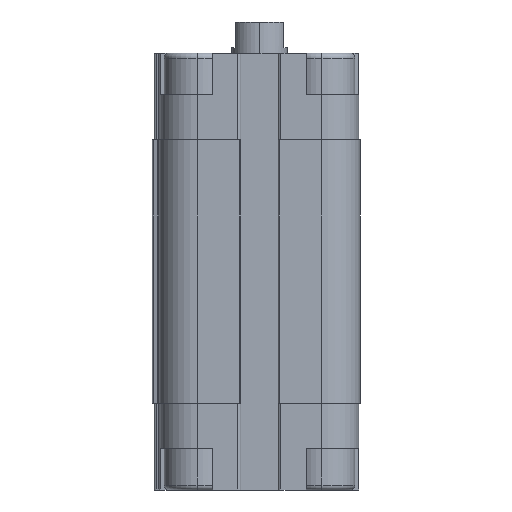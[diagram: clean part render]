
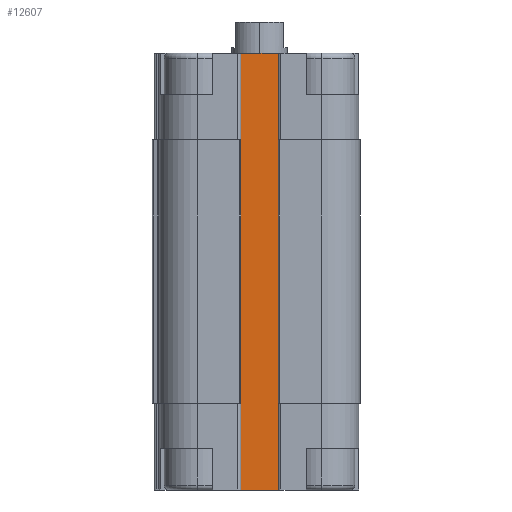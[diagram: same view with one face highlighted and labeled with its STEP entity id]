
A CAD part, left-side view. The second image highlights one B-rep face of the part: STEP entity #12607.
In plain terms, the highlighted planar face has unit normal (-1, 0, 0).
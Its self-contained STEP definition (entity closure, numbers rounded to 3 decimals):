
#48 = ORIENTED_EDGE ( 'NONE', *, *, #17243, .T. ) ;
#114 = LINE ( 'NONE', #8012, #1706 ) ;
#169 = DIRECTION ( 'NONE',  ( 0., 0., 1. ) ) ;
#175 = DIRECTION ( 'NONE',  ( 0., 0., 1. ) ) ;
#234 = EDGE_CURVE ( 'NONE', #6271, #484, #8747, .T. ) ;
#484 = VERTEX_POINT ( 'NONE', #3985 ) ;
#528 = VECTOR ( 'NONE', #13109, 1000. ) ;
#873 = CARTESIAN_POINT ( 'NONE',  ( -9.5, 3., -12.5 ) ) ;
#1389 = ORIENTED_EDGE ( 'NONE', *, *, #8043, .T. ) ;
#1542 = ORIENTED_EDGE ( 'NONE', *, *, #16146, .F. ) ;
#1556 = LINE ( 'NONE', #4267, #10526 ) ;
#1706 = VECTOR ( 'NONE', #14509, 1000. ) ;
#2089 = VECTOR ( 'NONE', #9104, 1000. ) ;
#2181 = EDGE_CURVE ( 'NONE', #484, #14201, #16169, .T. ) ;
#2360 = PLANE ( 'NONE',  #9094 ) ;
#2531 = LINE ( 'NONE', #10455, #13411 ) ;
#2786 = ORIENTED_EDGE ( 'NONE', *, *, #4739, .T. ) ;
#3123 = ORIENTED_EDGE ( 'NONE', *, *, #7913, .F. ) ;
#3163 = EDGE_CURVE ( 'NONE', #4167, #11962, #114, .T. ) ;
#3693 = EDGE_CURVE ( 'NONE', #11791, #4167, #6968, .T. ) ;
#3985 = CARTESIAN_POINT ( 'NONE',  ( -9.5, -3.2, -50.5 ) ) ;
#3995 = CARTESIAN_POINT ( 'NONE',  ( -9.5, 3., -63. ) ) ;
#4118 = CARTESIAN_POINT ( 'NONE',  ( -9.5, -3., -12.5 ) ) ;
#4155 = VECTOR ( 'NONE', #9162, 1000. ) ;
#4167 = VERTEX_POINT ( 'NONE', #13715 ) ;
#4267 = CARTESIAN_POINT ( 'NONE',  ( -9.5, 3.2, -12.5 ) ) ;
#4482 = CARTESIAN_POINT ( 'NONE',  ( -9.5, -3.2, -50.5 ) ) ;
#4647 = ORIENTED_EDGE ( 'NONE', *, *, #17367, .F. ) ;
#4678 = CARTESIAN_POINT ( 'NONE',  ( -9.5, 3., -12.5 ) ) ;
#4739 = EDGE_CURVE ( 'NONE', #5573, #13118, #2531, .T. ) ;
#4877 = CARTESIAN_POINT ( 'NONE',  ( -9.5, 3.2, -50.5 ) ) ;
#5048 = EDGE_LOOP ( 'NONE', ( #8884, #8611, #14757, #3123, #2786, #1542, #9025, #48, #7728, #10799, #4647, #1389 ) ) ;
#5200 = LINE ( 'NONE', #8010, #4155 ) ;
#5573 = VERTEX_POINT ( 'NONE', #7999 ) ;
#5916 = VERTEX_POINT ( 'NONE', #12827 ) ;
#6084 = LINE ( 'NONE', #15651, #528 ) ;
#6265 = VERTEX_POINT ( 'NONE', #16749 ) ;
#6271 = VERTEX_POINT ( 'NONE', #16932 ) ;
#6278 = CARTESIAN_POINT ( 'NONE',  ( -9.5, -3., -63. ) ) ;
#6842 = CARTESIAN_POINT ( 'NONE',  ( -9.5, 3., -63. ) ) ;
#6852 = CARTESIAN_POINT ( 'NONE',  ( -9.5, -3., -12.5 ) ) ;
#6854 = VERTEX_POINT ( 'NONE', #6278 ) ;
#6926 = DIRECTION ( 'NONE',  ( 0., 0., 1. ) ) ;
#6968 = LINE ( 'NONE', #9625, #15177 ) ;
#7626 = DIRECTION ( 'NONE',  ( 0., -1., 0. ) ) ;
#7728 = ORIENTED_EDGE ( 'NONE', *, *, #234, .T. ) ;
#7913 = EDGE_CURVE ( 'NONE', #5573, #6265, #7991, .T. ) ;
#7991 = LINE ( 'NONE', #9575, #8470 ) ;
#7999 = CARTESIAN_POINT ( 'NONE',  ( -9.5, 3.2, -50.5 ) ) ;
#8010 = CARTESIAN_POINT ( 'NONE',  ( -9.5, 9., -12.5 ) ) ;
#8012 = CARTESIAN_POINT ( 'NONE',  ( -9.5, 3., 0. ) ) ;
#8043 = EDGE_CURVE ( 'NONE', #9210, #11962, #12205, .T. ) ;
#8470 = VECTOR ( 'NONE', #6926, 1000. ) ;
#8611 = ORIENTED_EDGE ( 'NONE', *, *, #3693, .F. ) ;
#8656 = DIRECTION ( 'NONE',  ( 0., -1., 0. ) ) ;
#8747 = LINE ( 'NONE', #4877, #10366 ) ;
#8884 = ORIENTED_EDGE ( 'NONE', *, *, #3163, .F. ) ;
#8947 = FACE_OUTER_BOUND ( 'NONE', #5048, .T. ) ;
#9025 = ORIENTED_EDGE ( 'NONE', *, *, #14308, .T. ) ;
#9094 = AXIS2_PLACEMENT_3D ( 'NONE', #873, #11499, #7626 ) ;
#9104 = DIRECTION ( 'NONE',  ( 0., -1., 0. ) ) ;
#9162 = DIRECTION ( 'NONE',  ( 0., -1., 0. ) ) ;
#9210 = VERTEX_POINT ( 'NONE', #6852 ) ;
#9453 = LINE ( 'NONE', #3995, #2089 ) ;
#9575 = CARTESIAN_POINT ( 'NONE',  ( -9.5, 3.2, -50.5 ) ) ;
#9625 = CARTESIAN_POINT ( 'NONE',  ( -9.5, 3., -12.5 ) ) ;
#10332 = CARTESIAN_POINT ( 'NONE',  ( -9.5, -3.2, -12.5 ) ) ;
#10366 = VECTOR ( 'NONE', #8656, 1000. ) ;
#10455 = CARTESIAN_POINT ( 'NONE',  ( -9.5, 3.2, -50.5 ) ) ;
#10526 = VECTOR ( 'NONE', #13584, 1000. ) ;
#10799 = ORIENTED_EDGE ( 'NONE', *, *, #2181, .T. ) ;
#10866 = VECTOR ( 'NONE', #169, 1000. ) ;
#11499 = DIRECTION ( 'NONE',  ( -1., 0., 0. ) ) ;
#11791 = VERTEX_POINT ( 'NONE', #4678 ) ;
#11962 = VERTEX_POINT ( 'NONE', #12139 ) ;
#12139 = CARTESIAN_POINT ( 'NONE',  ( -9.5, -3., 0. ) ) ;
#12205 = LINE ( 'NONE', #4118, #17168 ) ;
#12243 = DIRECTION ( 'NONE',  ( 0., 0., 1. ) ) ;
#12607 = ADVANCED_FACE ( 'NONE', ( #8947 ), #2360, .T. ) ;
#12827 = CARTESIAN_POINT ( 'NONE',  ( -9.5, 3., -63. ) ) ;
#13109 = DIRECTION ( 'NONE',  ( 0., 0., 1. ) ) ;
#13118 = VERTEX_POINT ( 'NONE', #16346 ) ;
#13411 = VECTOR ( 'NONE', #14483, 1000. ) ;
#13584 = DIRECTION ( 'NONE',  ( 0., -1., 0. ) ) ;
#13685 = LINE ( 'NONE', #6842, #10866 ) ;
#13715 = CARTESIAN_POINT ( 'NONE',  ( -9.5, 3., 0. ) ) ;
#14201 = VERTEX_POINT ( 'NONE', #10332 ) ;
#14308 = EDGE_CURVE ( 'NONE', #5916, #6854, #9453, .T. ) ;
#14483 = DIRECTION ( 'NONE',  ( 0., -1., 0. ) ) ;
#14509 = DIRECTION ( 'NONE',  ( 0., -1., 0. ) ) ;
#14757 = ORIENTED_EDGE ( 'NONE', *, *, #14954, .F. ) ;
#14954 = EDGE_CURVE ( 'NONE', #6265, #11791, #1556, .T. ) ;
#15177 = VECTOR ( 'NONE', #12243, 1000. ) ;
#15199 = DIRECTION ( 'NONE',  ( 0., 0., 1. ) ) ;
#15469 = VECTOR ( 'NONE', #15199, 1000. ) ;
#15651 = CARTESIAN_POINT ( 'NONE',  ( -9.5, -3., -63. ) ) ;
#16146 = EDGE_CURVE ( 'NONE', #5916, #13118, #13685, .T. ) ;
#16169 = LINE ( 'NONE', #4482, #15469 ) ;
#16346 = CARTESIAN_POINT ( 'NONE',  ( -9.5, 3., -50.5 ) ) ;
#16749 = CARTESIAN_POINT ( 'NONE',  ( -9.5, 3.2, -12.5 ) ) ;
#16932 = CARTESIAN_POINT ( 'NONE',  ( -9.5, -3., -50.5 ) ) ;
#17168 = VECTOR ( 'NONE', #175, 1000. ) ;
#17243 = EDGE_CURVE ( 'NONE', #6854, #6271, #6084, .T. ) ;
#17367 = EDGE_CURVE ( 'NONE', #9210, #14201, #5200, .T. ) ;
